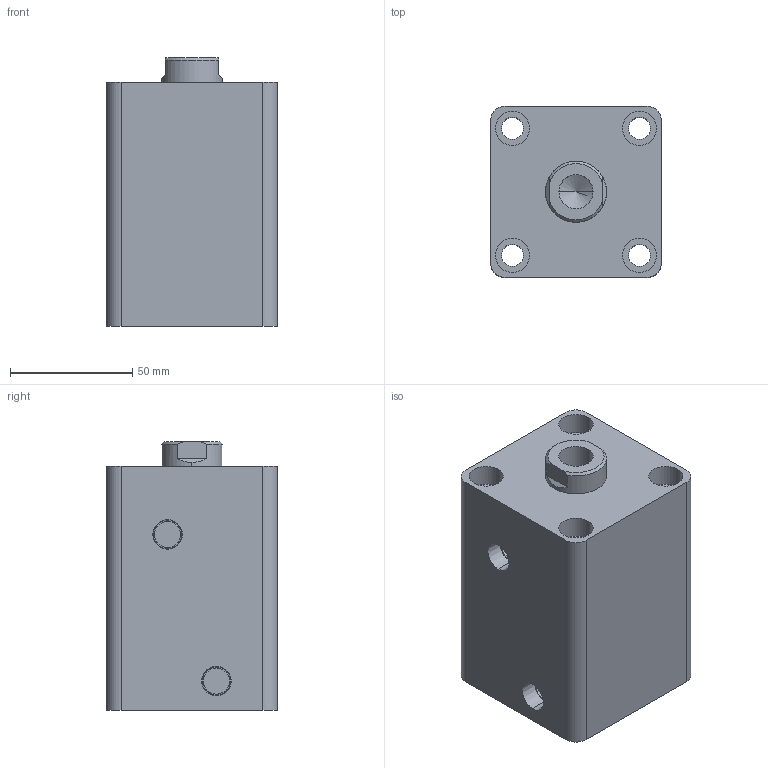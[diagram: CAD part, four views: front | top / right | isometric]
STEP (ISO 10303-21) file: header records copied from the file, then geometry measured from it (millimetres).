
FILE_DESCRIPTION (( 'STEP AP203' ), '1' );
FILE_NAME ('HTB-SD40-45N.STEP', '2019-10-07T06:51:22', ( '微软用户' ), ( '微软中国' ), 'SwSTEP 2.0', 'SolidWorks 2012', '' );
FILE_SCHEMA (( 'CONFIG_CONTROL_DESIGN' ));
Length unit declared in the file: millimetre
Products named in the file (3): HTB-SD40-45掛极; HTB-SD40-45N活塞杆; HTB-SD40-45N
Assembly tree (2 placements, depth 2):
  HTB-SD40-45N
    HTB-SD40-45掛极
    HTB-SD40-45N活塞杆
Bounding box: 70 x 70 x 110 mm (x, y, z)
Volume: 419958.1 mm3; surface area: 72895.3 mm2
Topology: 2 solids, 2 shells, 81 faces, 180 edges, 117 vertices
Faces by surface type: cylinder 42, plane 27, cone 8, torus 4
Entity records: 2603 total; most frequent: DIRECTION 444, CARTESIAN_POINT 409, ORIENTED_EDGE 356, AXIS2_PLACEMENT_3D 188, EDGE_CURVE 178, VERTEX_POINT 117, EDGE_LOOP 105, CIRCLE 102
